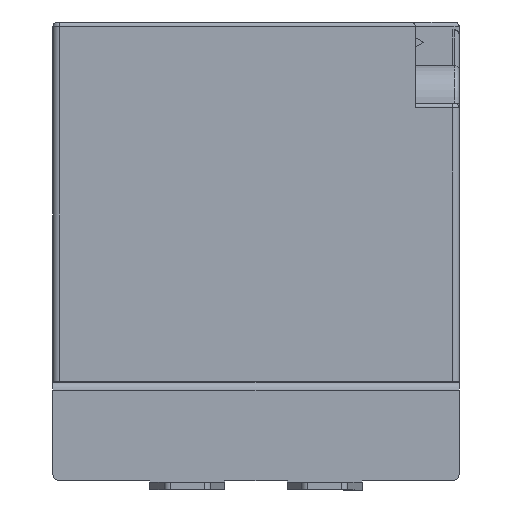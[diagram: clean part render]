
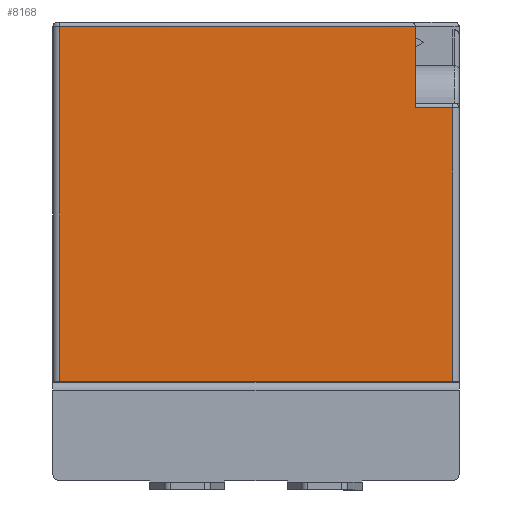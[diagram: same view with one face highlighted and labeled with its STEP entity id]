
A CAD part, front view. The second image highlights one B-rep face of the part: STEP entity #8168.
In plain terms, the highlighted planar face has unit normal (0, -1, 0).
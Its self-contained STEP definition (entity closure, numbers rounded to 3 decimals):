
#186 = ORIENTED_EDGE ( 'NONE', *, *, #29604, .T. ) ;
#1821 = DIRECTION ( 'NONE',  ( -1., 0., 0. ) ) ;
#2239 = VECTOR ( 'NONE', #7848, 1000. ) ;
#2422 = CARTESIAN_POINT ( 'NONE',  ( 65., -88., 115. ) ) ;
#2687 = DIRECTION ( 'NONE',  ( 0., 0., 1. ) ) ;
#3561 = ORIENTED_EDGE ( 'NONE', *, *, #14668, .T. ) ;
#3613 = CARTESIAN_POINT ( 'NONE',  ( 63., -88., 115. ) ) ;
#4329 = CARTESIAN_POINT ( 'NONE',  ( -63., -88., 115. ) ) ;
#4582 = ORIENTED_EDGE ( 'NONE', *, *, #25557, .T. ) ;
#4988 = CARTESIAN_POINT ( 'NONE',  ( 63., -88., 87.5 ) ) ;
#5204 = VERTEX_POINT ( 'NONE', #10168 ) ;
#5749 = AXIS2_PLACEMENT_3D ( 'NONE', #2422, #12785, #16550 ) ;
#6185 = LINE ( 'NONE', #41264, #32028 ) ;
#7008 = CARTESIAN_POINT ( 'NONE',  ( 51., -88., 87.5 ) ) ;
#7848 = DIRECTION ( 'NONE',  ( 0., 0., -1. ) ) ;
#8168 = ADVANCED_FACE ( 'NONE', ( #34646 ), #19606, .F. ) ;
#8191 = EDGE_CURVE ( 'NONE', #5204, #34085, #6185, .T. ) ;
#9291 = CARTESIAN_POINT ( 'NONE',  ( 51., -88., 101. ) ) ;
#9424 = VERTEX_POINT ( 'NONE', #4988 ) ;
#10168 = CARTESIAN_POINT ( 'NONE',  ( -63., -88., 0. ) ) ;
#12785 = DIRECTION ( 'NONE',  ( 0., 1., 0. ) ) ;
#14668 = EDGE_CURVE ( 'NONE', #36444, #5204, #40095, .T. ) ;
#14740 = LINE ( 'NONE', #44394, #44457 ) ;
#15381 = EDGE_LOOP ( 'NONE', ( #24673, #4582, #16621, #27015, #186, #3561 ) ) ;
#15519 = VERTEX_POINT ( 'NONE', #42679 ) ;
#16550 = DIRECTION ( 'NONE',  ( 1., 0., 0. ) ) ;
#16621 = ORIENTED_EDGE ( 'NONE', *, *, #18560, .T. ) ;
#16625 = CARTESIAN_POINT ( 'NONE',  ( -65., -88., 113.5 ) ) ;
#17961 = LINE ( 'NONE', #3613, #22534 ) ;
#18560 = EDGE_CURVE ( 'NONE', #9424, #29362, #14740, .T. ) ;
#19606 = PLANE ( 'NONE',  #5749 ) ;
#22534 = VECTOR ( 'NONE', #2687, 1000. ) ;
#23636 = DIRECTION ( 'NONE',  ( 0., 0., 1. ) ) ;
#24673 = ORIENTED_EDGE ( 'NONE', *, *, #8191, .T. ) ;
#25353 = VECTOR ( 'NONE', #23636, 1000. ) ;
#25557 = EDGE_CURVE ( 'NONE', #34085, #9424, #17961, .T. ) ;
#26488 = DIRECTION ( 'NONE',  ( -1., 0., 0. ) ) ;
#27015 = ORIENTED_EDGE ( 'NONE', *, *, #41398, .T. ) ;
#27159 = LINE ( 'NONE', #9291, #25353 ) ;
#29362 = VERTEX_POINT ( 'NONE', #7008 ) ;
#29604 = EDGE_CURVE ( 'NONE', #15519, #36444, #41111, .T. ) ;
#31652 = VECTOR ( 'NONE', #1821, 1000. ) ;
#32028 = VECTOR ( 'NONE', #33960, 1000. ) ;
#33960 = DIRECTION ( 'NONE',  ( 1., 0., 0. ) ) ;
#34085 = VERTEX_POINT ( 'NONE', #44774 ) ;
#34646 = FACE_OUTER_BOUND ( 'NONE', #15381, .T. ) ;
#36444 = VERTEX_POINT ( 'NONE', #44888 ) ;
#40095 = LINE ( 'NONE', #4329, #2239 ) ;
#41111 = LINE ( 'NONE', #16625, #31652 ) ;
#41264 = CARTESIAN_POINT ( 'NONE',  ( 65., -88., 0. ) ) ;
#41398 = EDGE_CURVE ( 'NONE', #29362, #15519, #27159, .T. ) ;
#42679 = CARTESIAN_POINT ( 'NONE',  ( 51., -88., 113.5 ) ) ;
#44394 = CARTESIAN_POINT ( 'NONE',  ( 51., -88., 87.5 ) ) ;
#44457 = VECTOR ( 'NONE', #26488, 1000. ) ;
#44774 = CARTESIAN_POINT ( 'NONE',  ( 63., -88., 0. ) ) ;
#44888 = CARTESIAN_POINT ( 'NONE',  ( -63., -88., 113.5 ) ) ;
